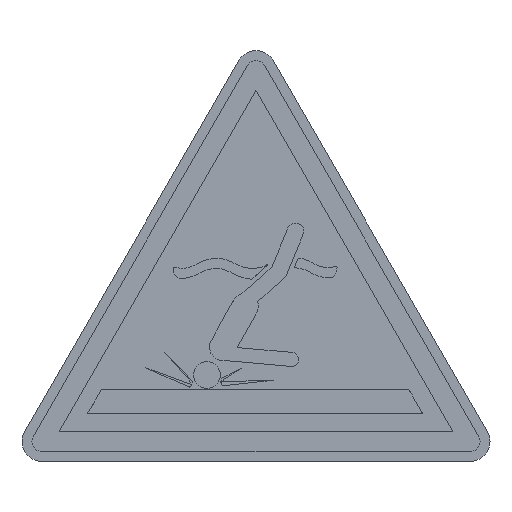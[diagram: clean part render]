
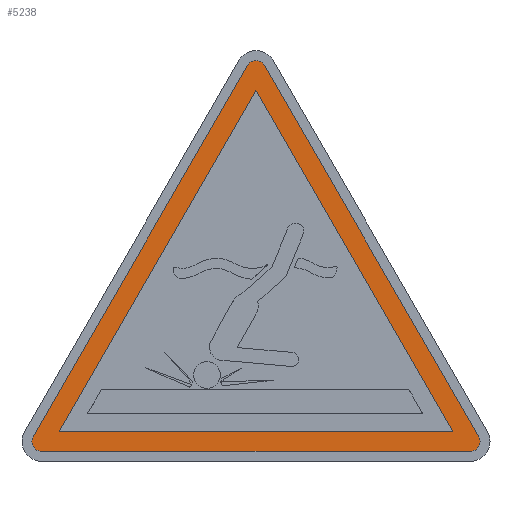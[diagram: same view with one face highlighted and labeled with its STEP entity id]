
A CAD part, top view. The second image highlights one B-rep face of the part: STEP entity #5238.
In plain terms, the highlighted planar face has unit normal (0, 0, 1).
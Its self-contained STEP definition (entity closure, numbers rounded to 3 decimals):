
#34 = CIRCLE ( 'NONE', #7098, 1. ) ;
#48 = EDGE_LOOP ( 'NONE', ( #3638, #7764, #1545, #6420, #1193, #1432 ) ) ;
#201 = DIRECTION ( 'NONE',  ( -0.5, 0.866, 0. ) ) ;
#435 = CARTESIAN_POINT ( 'NONE',  ( 22.402, 2.5, 0.22 ) ) ;
#480 = CIRCLE ( 'NONE', #877, 1. ) ;
#677 = CARTESIAN_POINT ( 'NONE',  ( -21.536, 1., 0.22 ) ) ;
#860 = VECTOR ( 'NONE', #3146, 1000. ) ;
#877 = AXIS2_PLACEMENT_3D ( 'NONE', #5217, #5938, #4102 ) ;
#1098 = CARTESIAN_POINT ( 'NONE',  ( 22.402, 2.5, 0.22 ) ) ;
#1136 = DIRECTION ( 'NONE',  ( 1., 0., 0. ) ) ;
#1142 = LINE ( 'NONE', #1098, #6798 ) ;
#1159 = VERTEX_POINT ( 'NONE', #435 ) ;
#1193 = ORIENTED_EDGE ( 'NONE', *, *, #6686, .T. ) ;
#1233 = FACE_OUTER_BOUND ( 'NONE', #48, .T. ) ;
#1313 = DIRECTION ( 'NONE',  ( 1., 0., 0. ) ) ;
#1398 = CIRCLE ( 'NONE', #7388, 1. ) ;
#1432 = ORIENTED_EDGE ( 'NONE', *, *, #3933, .T. ) ;
#1470 = VERTEX_POINT ( 'NONE', #2260 ) ;
#1545 = ORIENTED_EDGE ( 'NONE', *, *, #6785, .T. ) ;
#1586 = VERTEX_POINT ( 'NONE', #677 ) ;
#1673 = CARTESIAN_POINT ( 'NONE',  ( 0.866, 39.801, 0.22 ) ) ;
#1736 = CARTESIAN_POINT ( 'NONE',  ( -19.804, 3., 0.22 ) ) ;
#2064 = DIRECTION ( 'NONE',  ( 1., 0., 0. ) ) ;
#2072 = DIRECTION ( 'NONE',  ( 0., 0., 1. ) ) ;
#2175 = ORIENTED_EDGE ( 'NONE', *, *, #7577, .F. ) ;
#2260 = CARTESIAN_POINT ( 'NONE',  ( -22.402, 2.5, 0.22 ) ) ;
#2462 = VERTEX_POINT ( 'NONE', #7668 ) ;
#2519 = CARTESIAN_POINT ( 'NONE',  ( 0., 37.301, 0.22 ) ) ;
#2634 = CARTESIAN_POINT ( 'NONE',  ( 0., 39.301, 0.22 ) ) ;
#2663 = AXIS2_PLACEMENT_3D ( 'NONE', #7513, #7561, #1313 ) ;
#2747 = VECTOR ( 'NONE', #5035, 1000. ) ;
#2952 = VERTEX_POINT ( 'NONE', #7507 ) ;
#3010 = VECTOR ( 'NONE', #6980, 1000. ) ;
#3146 = DIRECTION ( 'NONE',  ( -0.5, -0.866, 0. ) ) ;
#3269 = EDGE_CURVE ( 'NONE', #4549, #7527, #4350, .T. ) ;
#3638 = ORIENTED_EDGE ( 'NONE', *, *, #4747, .T. ) ;
#3736 = CARTESIAN_POINT ( 'NONE',  ( -0.866, 39.801, 0.22 ) ) ;
#3782 = LINE ( 'NONE', #7957, #4768 ) ;
#3809 = EDGE_CURVE ( 'NONE', #2462, #4549, #5803, .T. ) ;
#3933 = EDGE_CURVE ( 'NONE', #1159, #7224, #1142, .T. ) ;
#3950 = DIRECTION ( 'NONE',  ( 0., 0., 1. ) ) ;
#4000 = DIRECTION ( 'NONE',  ( 1., 0., 0. ) ) ;
#4102 = DIRECTION ( 'NONE',  ( 1., 0., 0. ) ) ;
#4350 = LINE ( 'NONE', #6270, #3010 ) ;
#4549 = VERTEX_POINT ( 'NONE', #2519 ) ;
#4663 = CARTESIAN_POINT ( 'NONE',  ( 19.804, 3., 0.22 ) ) ;
#4747 = EDGE_CURVE ( 'NONE', #7224, #2952, #34, .T. ) ;
#4768 = VECTOR ( 'NONE', #1136, 1000. ) ;
#4974 = LINE ( 'NONE', #3736, #860 ) ;
#5035 = DIRECTION ( 'NONE',  ( 1., 0., 0. ) ) ;
#5217 = CARTESIAN_POINT ( 'NONE',  ( -21.536, 2., 0.22 ) ) ;
#5236 = VECTOR ( 'NONE', #201, 1000. ) ;
#5238 = ADVANCED_FACE ( 'NONE', ( #1233, #6211 ), #7435, .T. ) ;
#5314 = CARTESIAN_POINT ( 'NONE',  ( 21.536, 1., 0.22 ) ) ;
#5474 = DIRECTION ( 'NONE',  ( -0.5, 0.866, 0. ) ) ;
#5525 = CARTESIAN_POINT ( 'NONE',  ( -19.804, 3., 0.22 ) ) ;
#5803 = LINE ( 'NONE', #4663, #5236 ) ;
#5938 = DIRECTION ( 'NONE',  ( 0., 0., 1. ) ) ;
#6171 = ORIENTED_EDGE ( 'NONE', *, *, #3269, .F. ) ;
#6211 = FACE_BOUND ( 'NONE', #7475, .T. ) ;
#6270 = CARTESIAN_POINT ( 'NONE',  ( 0., 37.301, 0.22 ) ) ;
#6420 = ORIENTED_EDGE ( 'NONE', *, *, #7974, .T. ) ;
#6431 = ORIENTED_EDGE ( 'NONE', *, *, #3809, .F. ) ;
#6686 = EDGE_CURVE ( 'NONE', #7627, #1159, #1398, .T. ) ;
#6785 = EDGE_CURVE ( 'NONE', #1470, #1586, #480, .T. ) ;
#6798 = VECTOR ( 'NONE', #5474, 1000. ) ;
#6980 = DIRECTION ( 'NONE',  ( -0.5, -0.866, 0. ) ) ;
#7098 = AXIS2_PLACEMENT_3D ( 'NONE', #2634, #2072, #4000 ) ;
#7224 = VERTEX_POINT ( 'NONE', #1673 ) ;
#7388 = AXIS2_PLACEMENT_3D ( 'NONE', #7632, #3950, #2064 ) ;
#7400 = LINE ( 'NONE', #5525, #2747 ) ;
#7435 = PLANE ( 'NONE',  #2663 ) ;
#7475 = EDGE_LOOP ( 'NONE', ( #2175, #6171, #6431 ) ) ;
#7507 = CARTESIAN_POINT ( 'NONE',  ( -0.866, 39.801, 0.22 ) ) ;
#7513 = CARTESIAN_POINT ( 'NONE',  ( 0., 39.301, 0.22 ) ) ;
#7527 = VERTEX_POINT ( 'NONE', #1736 ) ;
#7561 = DIRECTION ( 'NONE',  ( 0., 0., 1. ) ) ;
#7577 = EDGE_CURVE ( 'NONE', #7527, #2462, #7400, .T. ) ;
#7627 = VERTEX_POINT ( 'NONE', #5314 ) ;
#7632 = CARTESIAN_POINT ( 'NONE',  ( 21.536, 2., 0.22 ) ) ;
#7668 = CARTESIAN_POINT ( 'NONE',  ( 19.804, 3., 0.22 ) ) ;
#7764 = ORIENTED_EDGE ( 'NONE', *, *, #7994, .T. ) ;
#7957 = CARTESIAN_POINT ( 'NONE',  ( -21.536, 1., 0.22 ) ) ;
#7974 = EDGE_CURVE ( 'NONE', #1586, #7627, #3782, .T. ) ;
#7994 = EDGE_CURVE ( 'NONE', #2952, #1470, #4974, .T. ) ;
